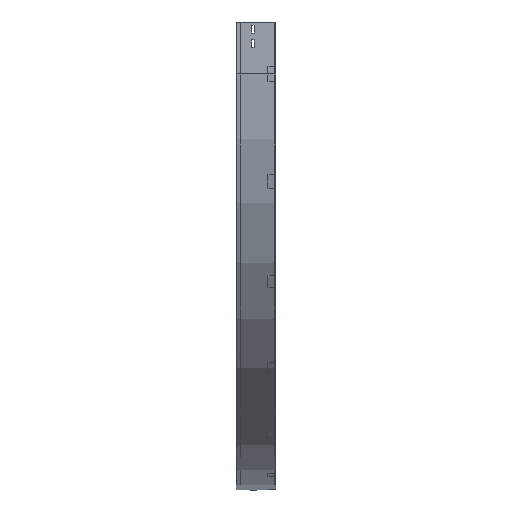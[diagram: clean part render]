
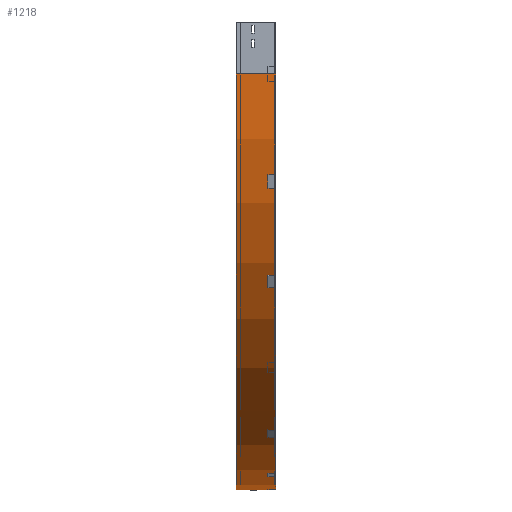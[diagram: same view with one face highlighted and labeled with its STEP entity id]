
A CAD part, left-side view. The second image highlights one B-rep face of the part: STEP entity #1218.
In plain terms, the highlighted cylindrical face has radius 1200 mm (diameter 2400 mm), a partial arc.
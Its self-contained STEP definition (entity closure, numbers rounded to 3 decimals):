
#62 = VERTEX_POINT ( 'NONE', #452 ) ;
#288 = CARTESIAN_POINT ( 'NONE',  ( 0., 0., -150. ) ) ;
#308 = EDGE_CURVE ( 'NONE', #62, #2928, #466, .T. ) ;
#353 = DIRECTION ( 'NONE',  ( 0., -1., 0. ) ) ;
#452 = CARTESIAN_POINT ( 'NONE',  ( 0., 112.5, -150. ) ) ;
#466 = LINE ( 'NONE', #3085, #955 ) ;
#511 = AXIS2_PLACEMENT_3D ( 'NONE', #1929, #3129, #2828 ) ;
#520 = EDGE_CURVE ( 'NONE', #62, #2026, #2278, .T. ) ;
#641 = EDGE_LOOP ( 'NONE', ( #2164, #3109, #2641, #3348 ) ) ;
#702 = AXIS2_PLACEMENT_3D ( 'NONE', #1678, #2924, #2880 ) ;
#730 = FACE_OUTER_BOUND ( 'NONE', #641, .T. ) ;
#825 = VERTEX_POINT ( 'NONE', #3195 ) ;
#955 = VECTOR ( 'NONE', #353, 1000. ) ;
#981 = DIRECTION ( 'NONE',  ( -1., 0., 0. ) ) ;
#1205 = EDGE_CURVE ( 'NONE', #2026, #825, #3420, .T. ) ;
#1218 = ADVANCED_FACE ( 'NONE', ( #730 ), #3691, .T. ) ;
#1678 = CARTESIAN_POINT ( 'NONE',  ( 1200., 112.5, -150. ) ) ;
#1929 = CARTESIAN_POINT ( 'NONE',  ( 1200., 0., -150. ) ) ;
#2026 = VERTEX_POINT ( 'NONE', #3478 ) ;
#2150 = CARTESIAN_POINT ( 'NONE',  ( 1200., 0., -150. ) ) ;
#2164 = ORIENTED_EDGE ( 'NONE', *, *, #3008, .F. ) ;
#2278 = CIRCLE ( 'NONE', #702, 1200. ) ;
#2338 = VECTOR ( 'NONE', #2480, 1000. ) ;
#2480 = DIRECTION ( 'NONE',  ( 0., -1., 0. ) ) ;
#2500 = CARTESIAN_POINT ( 'NONE',  ( 1200., 0., -1350. ) ) ;
#2641 = ORIENTED_EDGE ( 'NONE', *, *, #520, .T. ) ;
#2828 = DIRECTION ( 'NONE',  ( 0., 0., -1. ) ) ;
#2854 = CIRCLE ( 'NONE', #3498, 1200. ) ;
#2880 = DIRECTION ( 'NONE',  ( -1., 0., 0. ) ) ;
#2924 = DIRECTION ( 'NONE',  ( 0., -1., 0. ) ) ;
#2928 = VERTEX_POINT ( 'NONE', #288 ) ;
#3008 = EDGE_CURVE ( 'NONE', #2928, #825, #2854, .T. ) ;
#3085 = CARTESIAN_POINT ( 'NONE',  ( 0., 0., -150. ) ) ;
#3088 = DIRECTION ( 'NONE',  ( 0., -1., 0. ) ) ;
#3109 = ORIENTED_EDGE ( 'NONE', *, *, #308, .F. ) ;
#3129 = DIRECTION ( 'NONE',  ( 0., -1., 0. ) ) ;
#3195 = CARTESIAN_POINT ( 'NONE',  ( 1200., 0., -1350. ) ) ;
#3348 = ORIENTED_EDGE ( 'NONE', *, *, #1205, .T. ) ;
#3420 = LINE ( 'NONE', #2500, #2338 ) ;
#3478 = CARTESIAN_POINT ( 'NONE',  ( 1200., 112.5, -1350. ) ) ;
#3498 = AXIS2_PLACEMENT_3D ( 'NONE', #2150, #3088, #981 ) ;
#3691 = CYLINDRICAL_SURFACE ( 'NONE', #511, 1200. ) ;
